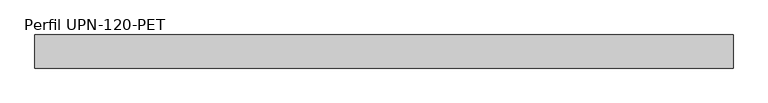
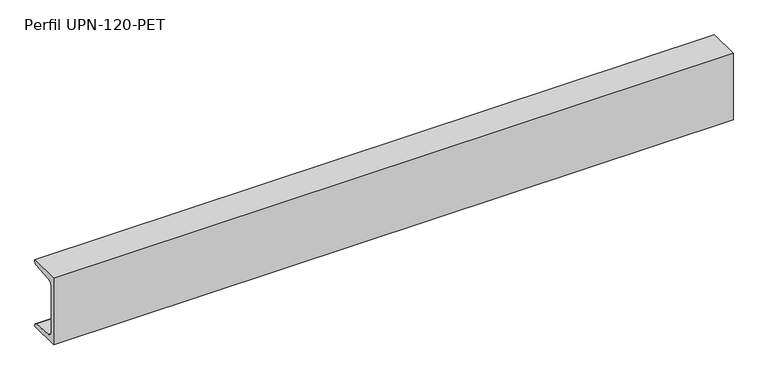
"""IFC4 building model written with IfcOpenShell, lengths in millimetres: beam geometry, ARES-I-AC-UPN-Perfil acero-PET : Perfil UPN-120-PET."""

import ifcopenshell
import ifcopenshell.guid

model = None  # the IFC model being written
_history = None  # IfcOwnerHistory: only IFC2X3 demands one
_inside = {}  # id of a spatial element -> (the spatial element, [elements in it])
_under = {}  # id of a project, library or spatial element -> (it, [spatial elements below it])
_declared = {}  # id of a project -> (the project, [libraries it declares])
_typed = {}  # id of a type object -> (the type object, [elements of that type])
_made_of = {}  # id of a material, layer set ... -> (it, [elements and type objects made of it])


def new_model(schema):
    """Start an empty IFC model of exactly this schema.

    Asked for "IFC4X3", IfcOpenShell would pick the latest addendum, in which some entities
    have other attributes; the version numbers below select the first issue.
    IFC2X3 requires an IfcOwnerHistory on every rooted entity: one is made here for all.
    """
    global model, _history
    if schema == "IFC4X3":
        model = ifcopenshell.file(schema_version=(4, 3, 0, 0))
    else:
        model = ifcopenshell.file(schema=schema)
    _inside.clear()
    _under.clear()
    _declared.clear()
    _typed.clear()
    _made_of.clear()
    _history = None
    if model.schema == "IFC2X3":
        org = make("IfcOrganization", Name="unknown")
        user = make(
            "IfcPersonAndOrganization",
            ThePerson=make("IfcPerson", FamilyName="unknown"),
            TheOrganization=org,
        )
        app = make(
            "IfcApplication",
            ApplicationDeveloper=org,
            Version="unknown",
            ApplicationFullName="unknown",
            ApplicationIdentifier="unknown",
        )
        _history = make(
            "IfcOwnerHistory",
            OwningUser=user,
            OwningApplication=app,
            ChangeAction="ADDED",
            CreationDate=0,
        )
    return model


def make(cls, **values):
    """One entity of the class cls with the attributes given. An attribute that is None is left unset."""
    return model.create_entity(
        cls, **{name: value for name, value in values.items() if value is not None}
    )


def rooted(cls, **values):
    """An entity with a GlobalId (a new one), such as an element, a storey or a relation."""
    return make(cls, GlobalId=ifcopenshell.guid.new(), OwnerHistory=_history, **values)


def si_unit(unit_type, name, prefix=None):
    """IfcSIUnit, for example si_unit("LENGTHUNIT", "METRE", prefix="MILLI")."""
    return make("IfcSIUnit", UnitType=unit_type, Prefix=prefix, Name=name)


def assignment(units):
    """IfcUnitAssignment: the units of a project."""
    return None if units is None else make("IfcUnitAssignment", Units=units)


def point(xyz):
    """IfcCartesianPoint."""
    return None if xyz is None else make("IfcCartesianPoint", Coordinates=xyz)


def direction(xyz):
    """IfcDirection."""
    return None if xyz is None else make("IfcDirection", DirectionRatios=xyz)


def frame(location, z_axis=None, x_axis=None):
    """IfcAxis2Placement3D, a coordinate frame: its origin and axes. An axis left out is left unset."""
    return make(
        "IfcAxis2Placement3D",
        Location=point(location),
        Axis=direction(z_axis),
        RefDirection=direction(x_axis),
    )


def frame_2d(location, x_axis=None):
    """IfcAxis2Placement2D, a coordinate frame in the plane: its origin and x axis."""
    return make(
        "IfcAxis2Placement2D", Location=point(location), RefDirection=direction(x_axis)
    )


def origin():
    """The frame at (0, 0, 0) with its axes left unset."""
    return frame((0.0, 0.0, 0.0))


def place(relative_to, where):
    """IfcLocalPlacement: puts the frame where relative to a parent placement (None: the world)."""
    return make(
        "IfcLocalPlacement", PlacementRelTo=relative_to, RelativePlacement=where
    )


def context(
    kind, dimensions, precision=None, world=None, true_north=None, identifier=None
):
    """IfcGeometricRepresentationContext, for example the 3D "Model" context."""
    return make(
        "IfcGeometricRepresentationContext",
        ContextIdentifier=identifier,
        ContextType=kind,
        CoordinateSpaceDimension=dimensions,
        Precision=precision,
        WorldCoordinateSystem=world,
        TrueNorth=true_north,
    )


def project(units=None, contexts=None):
    """IfcProject with its units and contexts."""
    return rooted(
        "IfcProject",
        Name="project",
        RepresentationContexts=contexts,
        UnitsInContext=assignment(units),
    )


def spatial(cls, under=None, at=None, **own):
    """A site, building, storey or space (cls), placed at a placement, below another one or the project."""
    s = rooted(cls, ObjectPlacement=at, **own)
    if under is not None:
        _under.setdefault(under.id(), (under, []))[1].append(s)
    return s


def polyline(points):
    """IfcPolyline through the points."""
    return make("IfcPolyline", Points=[point(p) for p in points])


def circle_curve(where, radius):
    """IfcCircle in the frame where."""
    return make("IfcCircle", Position=where, Radius=radius)


def trimmed(basis, trim1, trim2, sense, master):
    """IfcTrimmedCurve: the piece of a basis curve between two trims."""
    return make(
        "IfcTrimmedCurve",
        BasisCurve=basis,
        Trim1=trim1,
        Trim2=trim2,
        SenseAgreement=sense,
        MasterRepresentation=master,
    )


def segment(curve, same_sense, transition):
    """IfcCompositeCurveSegment."""
    return make(
        "IfcCompositeCurveSegment",
        Transition=transition,
        SameSense=same_sense,
        ParentCurve=curve,
    )


def composite_curve(segments, self_intersect=None):
    """IfcCompositeCurve: segments joined end to end."""
    return make("IfcCompositeCurve", Segments=segments, SelfIntersect=self_intersect)


def outline(outer, holes=None, kind="AREA"):
    """IfcArbitraryClosedProfileDef: a profile drawn as a closed curve; with holes, ...WithVoids."""
    if holes is None:
        return make("IfcArbitraryClosedProfileDef", ProfileType=kind, OuterCurve=outer)
    return make(
        "IfcArbitraryProfileDefWithVoids",
        ProfileType=kind,
        OuterCurve=outer,
        InnerCurves=holes,
    )


def extrude(swept, where, along, depth):
    """IfcExtrudedAreaSolid: the profile swept, set in the frame where, extruded along a direction by depth."""
    return make(
        "IfcExtrudedAreaSolid",
        SweptArea=swept,
        Position=where,
        ExtrudedDirection=direction(along),
        Depth=depth,
    )


def shape(context_of_items, identifier, shape_type, items):
    """IfcShapeRepresentation: the items that make up one representation, for example the "Body"."""
    return make(
        "IfcShapeRepresentation",
        ContextOfItems=context_of_items,
        RepresentationIdentifier=identifier,
        RepresentationType=shape_type,
        Items=items,
    )


def source(mapping_origin, context_of_items, identifier, shape_type, items):
    """IfcRepresentationMap: a shape defined once, which mapped items show again and again."""
    return make(
        "IfcRepresentationMap",
        MappingOrigin=mapping_origin,
        MappedRepresentation=shape(context_of_items, identifier, shape_type, items),
    )


def transform(
    local_origin,
    x_axis=None,
    y_axis=None,
    z_axis=None,
    scale=None,
    scale2=None,
    scale3=None,
    uniform=True,
):
    """IfcCartesianTransformationOperator3D, or its non-uniform kind. x_axis, y_axis, z_axis: its Axis1, 2, 3."""
    if uniform:
        return make(
            "IfcCartesianTransformationOperator3D",
            Axis1=direction(x_axis),
            Axis2=direction(y_axis),
            LocalOrigin=point(local_origin),
            Scale=scale,
            Axis3=direction(z_axis),
        )
    return make(
        "IfcCartesianTransformationOperator3DnonUniform",
        Axis1=direction(x_axis),
        Axis2=direction(y_axis),
        LocalOrigin=point(local_origin),
        Scale=scale,
        Axis3=direction(z_axis),
        Scale2=scale2,
        Scale3=scale3,
    )


def mapped(mapping_source, mapping_target):
    """IfcMappedItem: shows the shape of a source again, moved by a transform."""
    return make(
        "IfcMappedItem", MappingSource=mapping_source, MappingTarget=mapping_target
    )


def made_of(thing, what):
    """Note that an element or type object is made of a material, layer set ...; save() writes the relation."""
    if what is not None:
        _made_of.setdefault(what.id(), (what, []))[1].append(thing)
    return thing


def element(
    cls,
    number,
    at=None,
    inside=None,
    cuts=None,
    type_object=None,
    material=None,
    context=None,
    identifier="Body",
    shape_type=None,
    held_by="IfcProductDefinitionShape",
    body=None,
    shapes=None,
    **own,
):
    """One element of the class cls, such as IfcWall. Its Tag is "e" and its number.

    at: its placement. inside: the storey or other place that contains it. cuts: it is an
    opening in that element (IfcRelVoidsElement). A single representation is given by context,
    identifier, shape_type and body (its items); several are given by shapes. held_by: the class
    of the entity that holds the representations. save() writes the other relations.
    """
    e = rooted(cls, Tag="e%d" % number, ObjectPlacement=at, **own)
    if body is not None:
        shapes = [shape(context, identifier, shape_type, body)]
    if shapes is not None:
        e.Representation = make(held_by, Representations=shapes)
    if inside is not None:
        _inside.setdefault(inside.id(), (inside, []))[1].append(e)
    if cuts is not None:
        rooted(
            "IfcRelVoidsElement", RelatingBuildingElement=cuts, RelatedOpeningElement=e
        )
    if type_object is not None:
        _typed.setdefault(type_object.id(), (type_object, []))[1].append(e)
    return made_of(e, material)


def aggregate(whole, parts):
    """IfcRelAggregates: a whole, such as a stair, and the parts it consists of."""
    return rooted("IfcRelAggregates", RelatingObject=whole, RelatedObjects=parts)


def save(model, path):
    """Write the relations noted so far, then the file.

    IfcRelAggregates (storeys below a building ...), IfcRelContainedInSpatialStructure (elements
    in a storey), IfcRelDefinesByType, IfcRelAssociatesMaterial and IfcRelDeclares: one each for
    every whole, place, type object, material and project.
    """
    for whole, parts in _under.values():
        aggregate(whole, parts)
    for where, things in _inside.values():
        rooted(
            "IfcRelContainedInSpatialStructure",
            RelatedElements=things,
            RelatingStructure=where,
        )
    for kind, things in _typed.values():
        rooted("IfcRelDefinesByType", RelatedObjects=things, RelatingType=kind)
    for what, things in _made_of.values():
        rooted("IfcRelAssociatesMaterial", RelatedObjects=things, RelatingMaterial=what)
    for by, libraries in _declared.values():
        rooted("IfcRelDeclares", RelatingContext=by, RelatedDefinitions=libraries)
    model.write(path)


def perfil_upn_120_pet_017f4d01(model_context):
    return source(origin(), model_context, "Body", "SweptSolid", [
        extrude(outline(composite_curve([segment(polyline([(-16.0, 60.0), (39.0, 60.0), (39.0, 57.354377)]), True, "CONTINUOUS"), segment(trimmed(circle_curve(frame_2d((34.5, 57.354377)), 4.5), [point((39.0, 57.354377))], [point((34.8588535, 52.8687083))], False, "CARTESIAN"), True, "CONTINUOUS"), segment(polyline([(34.8588535, 52.8687083), (-0.717707, 50.0225834)]), True, "CONTINUOUS"), segment(trimmed(circle_curve(frame_2d((0.0, 41.0512459)), 9.0), [point((-0.717707, 50.0225834))], [point((-9.0, 41.0512459))], True, "CARTESIAN"), True, "CONTINUOUS"), segment(polyline([(-9.0, 41.0512459), (-9.0, -41.0512459)]), True, "CONTINUOUS"), segment(trimmed(circle_curve(frame_2d((0.0, -41.0512459)), 9.0), [point((-9.0, -41.0512459))], [point((-0.717707, -50.0225834))], True, "CARTESIAN"), True, "CONTINUOUS"), segment(polyline([(-0.717707, -50.0225834), (34.8588535, -52.8687083)]), True, "CONTINUOUS"), segment(trimmed(circle_curve(frame_2d((34.5, -57.354377)), 4.5), [point((34.8588535, -52.8687083))], [point((39.0, -57.354377))], False, "CARTESIAN"), True, "CONTINUOUS"), segment(polyline([(39.0, -57.354377), (39.0, -60.0), (-16.0, -60.0), (-16.0, 60.0)]), True, "CONTINUOUS")], self_intersect=False)), frame((-580.0, 0.0, 0.0), z_axis=(1.0, 0.0, 0.0), x_axis=(0.0, 1.0, 0.0)), (0.0, 0.0, 1.0), 1160.0),
    ])


if __name__ == "__main__":
    model = new_model("IFC4")
    model_context = context("Model", 3, world=origin())
    ifc_project = project(units=[si_unit("LENGTHUNIT", "METRE", prefix="MILLI")], contexts=[model_context])
    site = spatial("IfcSite", under=ifc_project)
    building = spatial("IfcBuilding", under=site)
    placement = place(None, origin())
    perfil_upn_120_pet_shape = perfil_upn_120_pet_017f4d01(model_context)
    element("IfcBeam", 1, ObjectType="ARES-I-AC-UPN-Perfil acero-PET : Perfil UPN-120-PET", at=placement, inside=building, context=model_context, shape_type="MappedRepresentation", body=[
        mapped(perfil_upn_120_pet_shape, transform((0.0, 0.0, 0.0), x_axis=(1.0, 0.0, 0.0), y_axis=(0.0, 1.0, 0.0), z_axis=(0.0, 0.0, 1.0))),
    ])
    save(model, "model.ifc")
